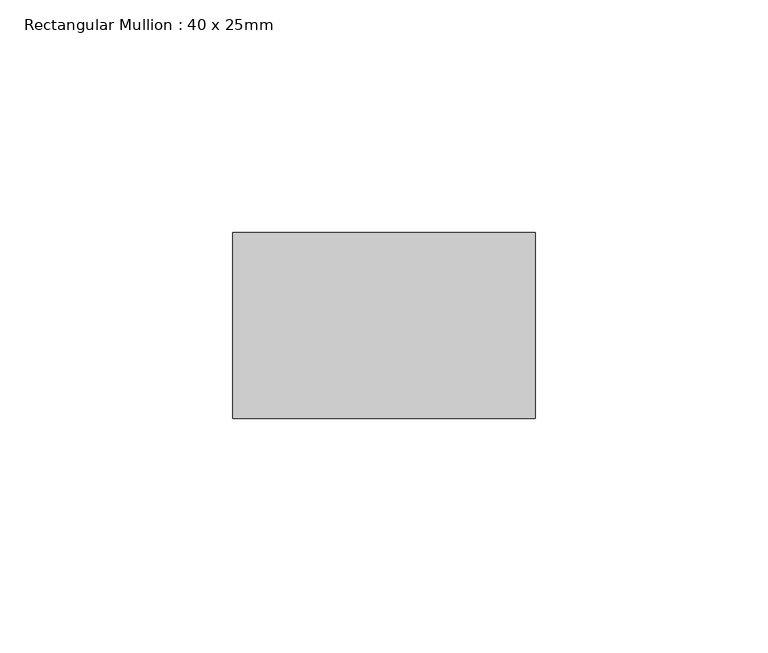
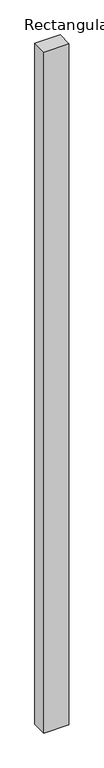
"""IFC4 building model written with IfcOpenShell, lengths in millimetres: member geometry, Rectangular Mullion : 40 x 25mm."""

import ifcopenshell
import ifcopenshell.guid

model = None  # the IFC model being written
_history = None  # IfcOwnerHistory: only IFC2X3 demands one
_inside = {}  # id of a spatial element -> (the spatial element, [elements in it])
_under = {}  # id of a project, library or spatial element -> (it, [spatial elements below it])
_declared = {}  # id of a project -> (the project, [libraries it declares])
_typed = {}  # id of a type object -> (the type object, [elements of that type])
_made_of = {}  # id of a material, layer set ... -> (it, [elements and type objects made of it])


def new_model(schema):
    """Start an empty IFC model of exactly this schema.

    Asked for "IFC4X3", IfcOpenShell would pick the latest addendum, in which some entities
    have other attributes; the version numbers below select the first issue.
    IFC2X3 requires an IfcOwnerHistory on every rooted entity: one is made here for all.
    """
    global model, _history
    if schema == "IFC4X3":
        model = ifcopenshell.file(schema_version=(4, 3, 0, 0))
    else:
        model = ifcopenshell.file(schema=schema)
    _inside.clear()
    _under.clear()
    _declared.clear()
    _typed.clear()
    _made_of.clear()
    _history = None
    if model.schema == "IFC2X3":
        org = make("IfcOrganization", Name="unknown")
        user = make(
            "IfcPersonAndOrganization",
            ThePerson=make("IfcPerson", FamilyName="unknown"),
            TheOrganization=org,
        )
        app = make(
            "IfcApplication",
            ApplicationDeveloper=org,
            Version="unknown",
            ApplicationFullName="unknown",
            ApplicationIdentifier="unknown",
        )
        _history = make(
            "IfcOwnerHistory",
            OwningUser=user,
            OwningApplication=app,
            ChangeAction="ADDED",
            CreationDate=0,
        )
    return model


def make(cls, **values):
    """One entity of the class cls with the attributes given. An attribute that is None is left unset."""
    return model.create_entity(
        cls, **{name: value for name, value in values.items() if value is not None}
    )


def rooted(cls, **values):
    """An entity with a GlobalId (a new one), such as an element, a storey or a relation."""
    return make(cls, GlobalId=ifcopenshell.guid.new(), OwnerHistory=_history, **values)


def si_unit(unit_type, name, prefix=None):
    """IfcSIUnit, for example si_unit("LENGTHUNIT", "METRE", prefix="MILLI")."""
    return make("IfcSIUnit", UnitType=unit_type, Prefix=prefix, Name=name)


def assignment(units):
    """IfcUnitAssignment: the units of a project."""
    return None if units is None else make("IfcUnitAssignment", Units=units)


def point(xyz):
    """IfcCartesianPoint."""
    return None if xyz is None else make("IfcCartesianPoint", Coordinates=xyz)


def direction(xyz):
    """IfcDirection."""
    return None if xyz is None else make("IfcDirection", DirectionRatios=xyz)


def frame(location, z_axis=None, x_axis=None):
    """IfcAxis2Placement3D, a coordinate frame: its origin and axes. An axis left out is left unset."""
    return make(
        "IfcAxis2Placement3D",
        Location=point(location),
        Axis=direction(z_axis),
        RefDirection=direction(x_axis),
    )


def origin():
    """The frame at (0, 0, 0) with its axes left unset."""
    return frame((0.0, 0.0, 0.0))


def place(relative_to, where):
    """IfcLocalPlacement: puts the frame where relative to a parent placement (None: the world)."""
    return make(
        "IfcLocalPlacement", PlacementRelTo=relative_to, RelativePlacement=where
    )


def context(
    kind, dimensions, precision=None, world=None, true_north=None, identifier=None
):
    """IfcGeometricRepresentationContext, for example the 3D "Model" context."""
    return make(
        "IfcGeometricRepresentationContext",
        ContextIdentifier=identifier,
        ContextType=kind,
        CoordinateSpaceDimension=dimensions,
        Precision=precision,
        WorldCoordinateSystem=world,
        TrueNorth=true_north,
    )


def project(units=None, contexts=None):
    """IfcProject with its units and contexts."""
    return rooted(
        "IfcProject",
        Name="project",
        RepresentationContexts=contexts,
        UnitsInContext=assignment(units),
    )


def spatial(cls, under=None, at=None, **own):
    """A site, building, storey or space (cls), placed at a placement, below another one or the project."""
    s = rooted(cls, ObjectPlacement=at, **own)
    if under is not None:
        _under.setdefault(under.id(), (under, []))[1].append(s)
    return s


def polyline(points):
    """IfcPolyline through the points."""
    return make("IfcPolyline", Points=[point(p) for p in points])


def outline(outer, holes=None, kind="AREA"):
    """IfcArbitraryClosedProfileDef: a profile drawn as a closed curve; with holes, ...WithVoids."""
    if holes is None:
        return make("IfcArbitraryClosedProfileDef", ProfileType=kind, OuterCurve=outer)
    return make(
        "IfcArbitraryProfileDefWithVoids",
        ProfileType=kind,
        OuterCurve=outer,
        InnerCurves=holes,
    )


def extrude(swept, where, along, depth):
    """IfcExtrudedAreaSolid: the profile swept, set in the frame where, extruded along a direction by depth."""
    return make(
        "IfcExtrudedAreaSolid",
        SweptArea=swept,
        Position=where,
        ExtrudedDirection=direction(along),
        Depth=depth,
    )


def shape(context_of_items, identifier, shape_type, items):
    """IfcShapeRepresentation: the items that make up one representation, for example the "Body"."""
    return make(
        "IfcShapeRepresentation",
        ContextOfItems=context_of_items,
        RepresentationIdentifier=identifier,
        RepresentationType=shape_type,
        Items=items,
    )


def source(mapping_origin, context_of_items, identifier, shape_type, items):
    """IfcRepresentationMap: a shape defined once, which mapped items show again and again."""
    return make(
        "IfcRepresentationMap",
        MappingOrigin=mapping_origin,
        MappedRepresentation=shape(context_of_items, identifier, shape_type, items),
    )


def transform(
    local_origin,
    x_axis=None,
    y_axis=None,
    z_axis=None,
    scale=None,
    scale2=None,
    scale3=None,
    uniform=True,
):
    """IfcCartesianTransformationOperator3D, or its non-uniform kind. x_axis, y_axis, z_axis: its Axis1, 2, 3."""
    if uniform:
        return make(
            "IfcCartesianTransformationOperator3D",
            Axis1=direction(x_axis),
            Axis2=direction(y_axis),
            LocalOrigin=point(local_origin),
            Scale=scale,
            Axis3=direction(z_axis),
        )
    return make(
        "IfcCartesianTransformationOperator3DnonUniform",
        Axis1=direction(x_axis),
        Axis2=direction(y_axis),
        LocalOrigin=point(local_origin),
        Scale=scale,
        Axis3=direction(z_axis),
        Scale2=scale2,
        Scale3=scale3,
    )


def mapped(mapping_source, mapping_target):
    """IfcMappedItem: shows the shape of a source again, moved by a transform."""
    return make(
        "IfcMappedItem", MappingSource=mapping_source, MappingTarget=mapping_target
    )


def made_of(thing, what):
    """Note that an element or type object is made of a material, layer set ...; save() writes the relation."""
    if what is not None:
        _made_of.setdefault(what.id(), (what, []))[1].append(thing)
    return thing


def element(
    cls,
    number,
    at=None,
    inside=None,
    cuts=None,
    type_object=None,
    material=None,
    context=None,
    identifier="Body",
    shape_type=None,
    held_by="IfcProductDefinitionShape",
    body=None,
    shapes=None,
    **own,
):
    """One element of the class cls, such as IfcWall. Its Tag is "e" and its number.

    at: its placement. inside: the storey or other place that contains it. cuts: it is an
    opening in that element (IfcRelVoidsElement). A single representation is given by context,
    identifier, shape_type and body (its items); several are given by shapes. held_by: the class
    of the entity that holds the representations. save() writes the other relations.
    """
    e = rooted(cls, Tag="e%d" % number, ObjectPlacement=at, **own)
    if body is not None:
        shapes = [shape(context, identifier, shape_type, body)]
    if shapes is not None:
        e.Representation = make(held_by, Representations=shapes)
    if inside is not None:
        _inside.setdefault(inside.id(), (inside, []))[1].append(e)
    if cuts is not None:
        rooted(
            "IfcRelVoidsElement", RelatingBuildingElement=cuts, RelatedOpeningElement=e
        )
    if type_object is not None:
        _typed.setdefault(type_object.id(), (type_object, []))[1].append(e)
    return made_of(e, material)


def aggregate(whole, parts):
    """IfcRelAggregates: a whole, such as a stair, and the parts it consists of."""
    return rooted("IfcRelAggregates", RelatingObject=whole, RelatedObjects=parts)


def save(model, path):
    """Write the relations noted so far, then the file.

    IfcRelAggregates (storeys below a building ...), IfcRelContainedInSpatialStructure (elements
    in a storey), IfcRelDefinesByType, IfcRelAssociatesMaterial and IfcRelDeclares: one each for
    every whole, place, type object, material and project.
    """
    for whole, parts in _under.values():
        aggregate(whole, parts)
    for where, things in _inside.values():
        rooted(
            "IfcRelContainedInSpatialStructure",
            RelatedElements=things,
            RelatingStructure=where,
        )
    for kind, things in _typed.values():
        rooted("IfcRelDefinesByType", RelatedObjects=things, RelatingType=kind)
    for what, things in _made_of.values():
        rooted("IfcRelAssociatesMaterial", RelatedObjects=things, RelatingMaterial=what)
    for by, libraries in _declared.values():
        rooted("IfcRelDeclares", RelatingContext=by, RelatedDefinitions=libraries)
    model.write(path)


def rectangular_mullion_40_x_25mm_637fdf86(model_context):
    return source(origin(), model_context, "Body", "SweptSolid", [
        extrude(outline(polyline([(0.0, -20.0), (0.0, -60.0), (-65.0, -60.0), (-65.0, -20.0), (0.0, -20.0)])), frame((0.0, 0.0, -1861.2589444), z_axis=(0.0, 0.0, 1.0), x_axis=(1.0, 0.0, 0.0)), (0.0, 0.0, 1.0), 1861.2589444),
    ])


if __name__ == "__main__":
    model = new_model("IFC4")
    model_context = context("Model", 3, world=origin())
    ifc_project = project(units=[si_unit("LENGTHUNIT", "METRE", prefix="MILLI")], contexts=[model_context])
    site = spatial("IfcSite", under=ifc_project)
    building = spatial("IfcBuilding", under=site)
    placement = place(None, origin())
    rectangular_mullion_40_x_25mm_shape = rectangular_mullion_40_x_25mm_637fdf86(model_context)
    element("IfcMember", 1, ObjectType="Rectangular Mullion : 40 x 25mm", at=placement, inside=building, context=model_context, shape_type="MappedRepresentation", body=[
        mapped(rectangular_mullion_40_x_25mm_shape, transform((0.0, 0.0, 0.0), x_axis=(1.0, 0.0, 0.0), y_axis=(0.0, 1.0, 0.0), z_axis=(0.0, 0.0, 1.0))),
    ])
    save(model, "model.ifc")
